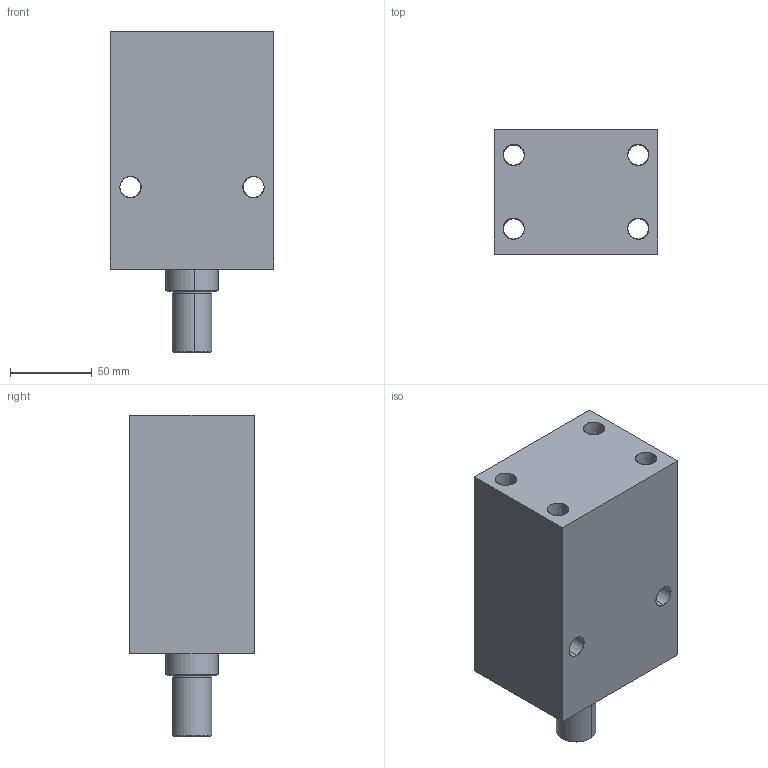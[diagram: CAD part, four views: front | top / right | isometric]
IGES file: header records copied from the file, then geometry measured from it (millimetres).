
Start section: SolidWorks IGES file using analytic representation for surfaces
Global section: file name: D:\karuppas\Clasp\3D model\Block cylinder B01C-Male thread - Copy\B01C-475M\Block cylinder B01C-475M.IGS; native system: SolidWorks 2017; preprocessor: SolidWorks 2017; author: pc; date: 220709.234338; units: millimetre
Bounding box: 100 x 76 x 196 mm (x, y, z)
Surface area: 113685.1 mm2 (no closed solid volume)
Topology: 0 solids, 0 shells, 333 faces, 5156 edges, 5152 vertices
Faces by surface type: bspline 291, revolution 42
